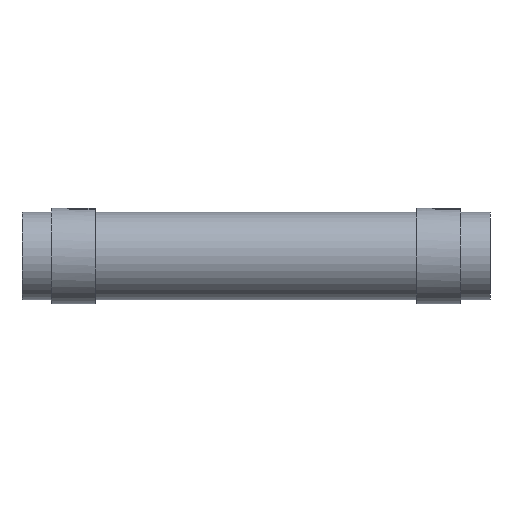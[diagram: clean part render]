
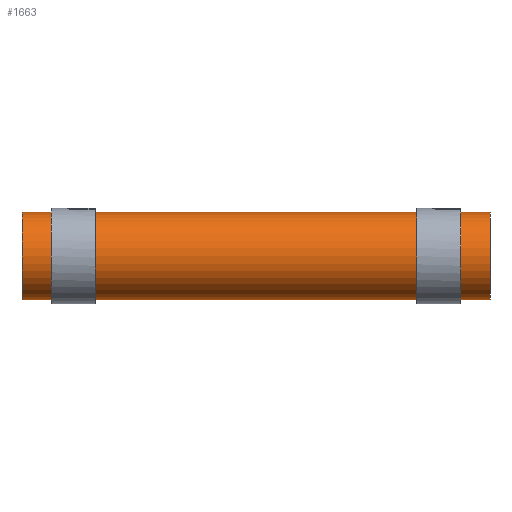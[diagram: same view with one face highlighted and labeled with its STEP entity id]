
A CAD part, front view. The second image highlights one B-rep face of the part: STEP entity #1663.
In plain terms, the highlighted cylindrical face has radius 9.525 mm (diameter 19.05 mm), a partial arc.
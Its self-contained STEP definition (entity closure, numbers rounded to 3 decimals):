
#216 = DIRECTION ( 'NONE',  ( -1., 0., 0. ) ) ;
#219 = CARTESIAN_POINT ( 'NONE',  ( 50.8, 0., 0. ) ) ;
#220 = DIRECTION ( 'NONE',  ( 0., 0., 1. ) ) ;
#237 = CARTESIAN_POINT ( 'NONE',  ( -50.8, 0., -9.525 ) ) ;
#247 = CARTESIAN_POINT ( 'NONE',  ( -50.8, 0., 9.525 ) ) ;
#264 = CARTESIAN_POINT ( 'NONE',  ( 50.8, 0., -9.525 ) ) ;
#286 = CARTESIAN_POINT ( 'NONE',  ( 50.8, 0., 9.525 ) ) ;
#383 = DIRECTION ( 'NONE',  ( -1., 0., 0. ) ) ;
#393 = CARTESIAN_POINT ( 'NONE',  ( 50.8, 0., 9.525 ) ) ;
#525 = DIRECTION ( 'NONE',  ( 0., 0., -1. ) ) ;
#526 = DIRECTION ( 'NONE',  ( 1., 0., 0. ) ) ;
#527 = CARTESIAN_POINT ( 'NONE',  ( 50.8, 0., 0. ) ) ;
#633 = DIRECTION ( 'NONE',  ( 0., 0., -1. ) ) ;
#634 = DIRECTION ( 'NONE',  ( 1., 0., 0. ) ) ;
#635 = CARTESIAN_POINT ( 'NONE',  ( -50.8, 0., 0. ) ) ;
#660 = CARTESIAN_POINT ( 'NONE',  ( 50.8, 0., -9.525 ) ) ;
#666 = DIRECTION ( 'NONE',  ( -1., 0., 0. ) ) ;
#807 = EDGE_CURVE ( 'NONE', #1251, #1276, #1002, .T. ) ;
#820 = EDGE_CURVE ( 'NONE', #1265, #1276, #987, .T. ) ;
#856 = AXIS2_PLACEMENT_3D ( 'NONE', #219, #216, #220 ) ;
#880 = AXIS2_PLACEMENT_3D ( 'NONE', #527, #526, #525 ) ;
#888 = AXIS2_PLACEMENT_3D ( 'NONE', #635, #634, #633 ) ;
#914 = EDGE_CURVE ( 'NONE', #1221, #1251, #1398, .T. ) ;
#937 = EDGE_CURVE ( 'NONE', #1221, #1265, #1628, .T. ) ;
#987 = CIRCLE ( 'NONE', #888, 9.525 ) ;
#990 = VECTOR ( 'NONE', #666, 1000. ) ;
#1000 = EDGE_LOOP ( 'NONE', ( #1105, #1104, #1103, #1102 ) ) ;
#1002 = LINE ( 'NONE', #660, #990 ) ;
#1102 = ORIENTED_EDGE ( 'NONE', *, *, #820, .T. ) ;
#1103 = ORIENTED_EDGE ( 'NONE', *, *, #937, .T. ) ;
#1104 = ORIENTED_EDGE ( 'NONE', *, *, #914, .F. ) ;
#1105 = ORIENTED_EDGE ( 'NONE', *, *, #807, .F. ) ;
#1221 = VERTEX_POINT ( 'NONE', #286 ) ;
#1251 = VERTEX_POINT ( 'NONE', #264 ) ;
#1265 = VERTEX_POINT ( 'NONE', #247 ) ;
#1276 = VERTEX_POINT ( 'NONE', #237 ) ;
#1398 = CIRCLE ( 'NONE', #880, 9.525 ) ;
#1565 = FACE_OUTER_BOUND ( 'NONE', #1000, .T. ) ;
#1568 = CYLINDRICAL_SURFACE ( 'NONE', #856, 9.525 ) ;
#1624 = VECTOR ( 'NONE', #383, 1000. ) ;
#1628 = LINE ( 'NONE', #393, #1624 ) ;
#1663 = ADVANCED_FACE ( 'NONE', ( #1565 ), #1568, .T. ) ;
